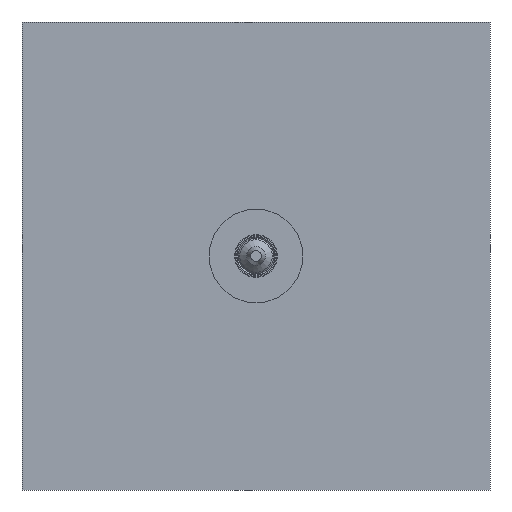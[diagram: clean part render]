
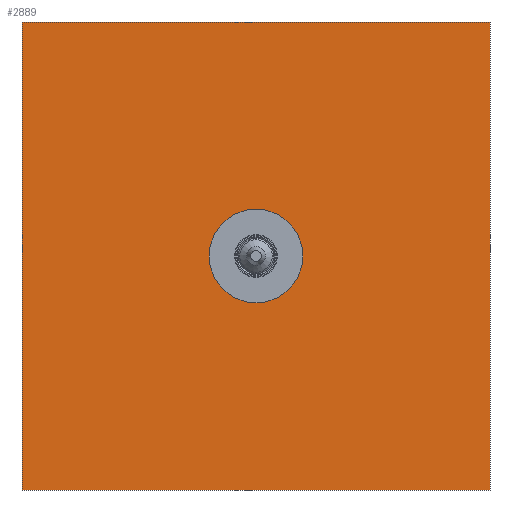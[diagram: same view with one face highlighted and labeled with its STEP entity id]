
A CAD part, left-side view. The second image highlights one B-rep face of the part: STEP entity #2889.
In plain terms, the highlighted planar face has unit normal (-1, 0, 0).
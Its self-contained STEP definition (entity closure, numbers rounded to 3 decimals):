
#377=CIRCLE('',#4449,20.);
#484=ORIENTED_EDGE('',*,*,#1306,.F.);
#485=ORIENTED_EDGE('',*,*,#1293,.F.);
#486=ORIENTED_EDGE('',*,*,#1303,.F.);
#487=ORIENTED_EDGE('',*,*,#1300,.F.);
#488=ORIENTED_EDGE('',*,*,#1297,.F.);
#1293=EDGE_CURVE('',#1708,#1709,#2004,.T.);
#1297=EDGE_CURVE('',#1709,#1712,#2008,.T.);
#1300=EDGE_CURVE('',#1712,#1714,#2011,.T.);
#1303=EDGE_CURVE('',#1714,#1708,#2014,.T.);
#1306=EDGE_CURVE('',#1717,#1717,#377,.F.);
#1708=VERTEX_POINT('',#5247);
#1709=VERTEX_POINT('',#5248);
#1712=VERTEX_POINT('',#5256);
#1714=VERTEX_POINT('',#5262);
#1717=VERTEX_POINT('',#5274);
#2004=LINE('',#5246,#2147);
#2008=LINE('',#5255,#2151);
#2011=LINE('',#5261,#2154);
#2014=LINE('',#5267,#2157);
#2147=VECTOR('',#4665,1000.);
#2151=VECTOR('',#4671,1000.);
#2154=VECTOR('',#4676,1000.);
#2157=VECTOR('',#4681,1000.);
#2296=EDGE_LOOP('',(#484));
#2297=EDGE_LOOP('',(#485,#486,#487,#488));
#2568=FACE_BOUND('',#2296,.T.);
#2569=FACE_BOUND('',#2297,.T.);
#2840=PLANE('',#4448);
#2889=ADVANCED_FACE('',(#2568,#2569),#2840,.F.);
#4448=AXIS2_PLACEMENT_3D('',#5272,#4687,#4688);
#4449=AXIS2_PLACEMENT_3D('',#5273,#4689,#4690);
#4665=DIRECTION('',(0.,0.,1.));
#4671=DIRECTION('',(0.,-1.,0.));
#4676=DIRECTION('',(0.,0.,-1.));
#4681=DIRECTION('',(0.,1.,0.));
#4687=DIRECTION('',(1.,0.,0.));
#4688=DIRECTION('',(0.,0.,-1.));
#4689=DIRECTION('',(1.,0.,0.));
#4690=DIRECTION('',(0.,0.,-1.));
#5246=CARTESIAN_POINT('',(17.064,100.,-100.));
#5247=CARTESIAN_POINT('',(17.064,100.,-100.));
#5248=CARTESIAN_POINT('',(17.064,100.,100.));
#5255=CARTESIAN_POINT('',(17.064,100.,100.));
#5256=CARTESIAN_POINT('',(17.064,-100.,100.));
#5261=CARTESIAN_POINT('',(17.064,-100.,100.));
#5262=CARTESIAN_POINT('',(17.064,-100.,-100.));
#5267=CARTESIAN_POINT('',(17.064,-100.,-100.));
#5272=CARTESIAN_POINT('',(17.064,0.,0.));
#5273=CARTESIAN_POINT('',(17.064,0.,0.));
#5274=CARTESIAN_POINT('',(17.064,0.,-20.));
